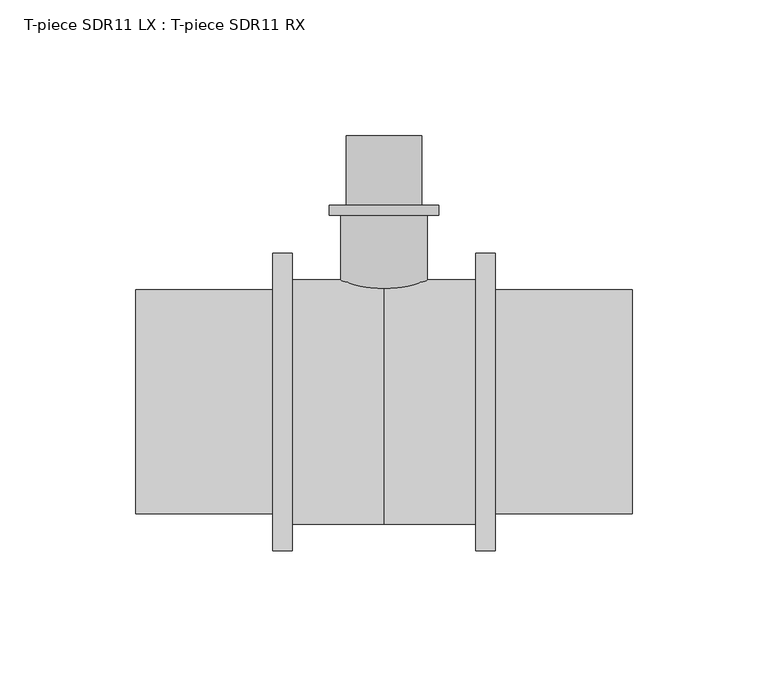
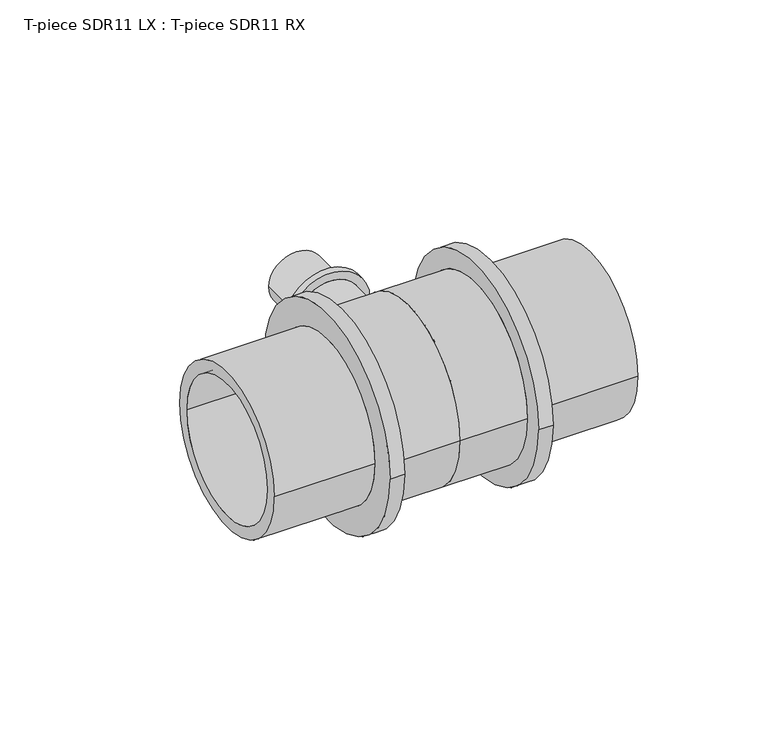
"""IFC4 building model written with IfcOpenShell, lengths in millimetres: pipe fitting geometry, T-piece SDR11 LX : T-piece SDR11 RX."""

from ifc_helpers import new_model, si_unit, point, frame, origin, place, context, project, spatial, polyline, circle_curve, ellipse_curve, trimmed, source, transform, mapped, element, save
from ifc_brep_helpers import plane_surface, cylinder_surface, revolved_surface, advanced_brep


def t_piece_sdr11_lx_t_piece_sdr11_rx_d9e8349e(model_context):
    return source(origin(), model_context, "Body", "AdvancedBrep", [
        advanced_brep(
        [(16.0, 0.8179801, 0.0), (-16.0, 0.8179801, 0.0), (-16.0, 68.8, 0.0), (16.0, 68.8, 0.0), (11.0, 98.0, 0.0), (-11.0, 98.0, 0.0), (-11.0, 0.0, 0.0), (11.0, 0.0, 0.0), (13.85, 72.5, 0.0), (-13.85, 72.5, 0.0), (-13.85, 98.0, 0.0), (13.85, 98.0, 0.0), (20.15, 68.8, 0.0), (-20.15, 68.8, 0.0), (-20.15, 72.5, 0.0), (20.15, 72.5, 0.0)],
        [
            (0, 1, circle_curve(frame((0.0, 0.8179801, 0.0), z_axis=(0.0, 1.0, 0.0), x_axis=(-1.0, 0.0, 0.0)), 16.0)),
            (1, 2),
            (2, 3, circle_curve(frame((0.0, 68.8, 0.0), z_axis=(0.0, -1.0, 0.0), x_axis=(-1.0, 0.0, 0.0)), 16.0)),
            (3, 0),
            (4, 5, circle_curve(frame((0.0, 98.0, 0.0), z_axis=(0.0, 1.0, 0.0), x_axis=(-1.0, 0.0, 0.0)), 11.0)),
            (5, 6),
            (6, 7, circle_curve(frame((0.0, 0.0, 0.0), z_axis=(0.0, -1.0, 0.0), x_axis=(-1.0, 0.0, 0.0)), 11.0)),
            (7, 4),
            (8, 9, circle_curve(frame((0.0, 72.5, 0.0), z_axis=(0.0, 1.0, 0.0), x_axis=(-1.0, 0.0, 0.0)), 13.85)),
            (9, 10),
            (10, 11, circle_curve(frame((0.0, 98.0, 0.0), z_axis=(0.0, -1.0, 0.0), x_axis=(-1.0, 0.0, 0.0)), 13.85)),
            (11, 8),
            (12, 13, circle_curve(frame((0.0, 68.8, 0.0), z_axis=(0.0, 1.0, 0.0), x_axis=(-1.0, 0.0, 0.0)), 20.15)),
            (13, 14),
            (14, 15, circle_curve(frame((0.0, 72.5, 0.0), z_axis=(0.0, -1.0, 0.0), x_axis=(-1.0, 0.0, 0.0)), 20.15)),
            (15, 12),
            (12, 13, circle_curve(frame((0.0, 68.8, 0.0), z_axis=(0.0, -1.0, 0.0), x_axis=(1.0, 0.0, 0.0)), 20.15)),
            (2, 3, circle_curve(frame((0.0, 68.8, 0.0), z_axis=(0.0, 1.0, 0.0), x_axis=(1.0, 0.0, 0.0)), 16.0)),
            (1, 0, circle_curve(frame((0.0, 0.8179801, 0.0), z_axis=(0.0, 1.0, 0.0), x_axis=(1.0, 0.0, 0.0)), 16.0)),
            (5, 4, circle_curve(frame((0.0, 98.0, 0.0), z_axis=(0.0, 1.0, 0.0), x_axis=(1.0, 0.0, 0.0)), 11.0)),
            (7, 6, circle_curve(frame((0.0, 0.0, 0.0), z_axis=(0.0, -1.0, 0.0), x_axis=(1.0, 0.0, 0.0)), 11.0)),
            (10, 11, circle_curve(frame((0.0, 98.0, 0.0), z_axis=(0.0, 1.0, 0.0), x_axis=(1.0, 0.0, 0.0)), 13.85)),
            (9, 8, circle_curve(frame((0.0, 72.5, 0.0), z_axis=(0.0, 1.0, 0.0), x_axis=(1.0, 0.0, 0.0)), 13.85)),
            (14, 15, circle_curve(frame((0.0, 72.5, 0.0), z_axis=(0.0, 1.0, 0.0), x_axis=(1.0, 0.0, 0.0)), 20.15)),
            (6, 1, circle_curve(frame((-6.2462802, 44.7482083, 0.0), z_axis=(0.0, 0.0, -1.0), x_axis=(0.0, -1.0, 0.0)), 45.0)),
            (0, 7, circle_curve(frame((6.2462802, 44.7482083, 0.0), z_axis=(0.0, 0.0, -1.0), x_axis=(0.0, -1.0, 0.0)), 45.0)),
        ],
        [
            cylinder_surface(frame((0.0, 0.0, 0.0), z_axis=(0.0, -1.0, 0.0), x_axis=(-1.0, 0.0, 0.0)), 16.0),
            revolved_surface(polyline([(-11.0, 0.0, 0.0), (-11.0, 98.0, 0.0)]), (0.0, 0.0, 0.0), (0.0, -1.0, 0.0)),
            cylinder_surface(frame((0.0, 0.0, 0.0), z_axis=(0.0, -1.0, 0.0), x_axis=(-1.0, 0.0, 0.0)), 13.85),
            cylinder_surface(frame((0.0, 0.0, 0.0), z_axis=(0.0, -1.0, 0.0), x_axis=(-1.0, 0.0, 0.0)), 20.15),
            plane_surface(frame((0.0, 68.8, 0.0), z_axis=(0.0, -1.0, 0.0), x_axis=(1.0, 0.0, 0.0))),
            cylinder_surface(frame((0.0, 0.0, 0.0), z_axis=(0.0, -1.0, 0.0), x_axis=(1.0, 0.0, 0.0)), 16.0),
            revolved_surface(polyline([(11.0, 0.0, 0.0), (11.0, 98.0, 0.0)]), (0.0, 0.0, 0.0), (0.0, -1.0, 0.0)),
            plane_surface(frame((0.0, 98.0, 0.0), z_axis=(0.0, 1.0, 0.0), x_axis=(1.0, 0.0, 0.0))),
            cylinder_surface(frame((0.0, 0.0, 0.0), z_axis=(0.0, -1.0, 0.0), x_axis=(1.0, 0.0, 0.0)), 13.85),
            plane_surface(frame((0.0, 72.5, 0.0), z_axis=(0.0, 1.0, 0.0), x_axis=(1.0, 0.0, 0.0))),
            cylinder_surface(frame((0.0, 0.0, 0.0), z_axis=(0.0, -1.0, 0.0), x_axis=(1.0, 0.0, 0.0)), 20.15),
            revolved_surface(trimmed(ellipse_curve(frame((-6.2462802, 44.7482083, 0.0), z_axis=(0.0, 0.0, 1.0), x_axis=(0.0, -1.0, 0.0)), 45.0, 45.0), [point((-16.0, 0.8179801, 0.0))], [point((-11.0, 0.0, 0.0))], True, "CARTESIAN"), (0.0, 0.0, 0.0), (0.0, -1.0, 0.0)),
            revolved_surface(trimmed(ellipse_curve(frame((6.2462802, 44.7482083, 0.0), z_axis=(0.0, 0.0, -1.0), x_axis=(0.0, -1.0, 0.0)), 45.0, 45.0), [point((16.0, 0.8179801, 0.0))], [point((11.0, 0.0, 0.0))], True, "CARTESIAN"), (0.0, 0.0, 0.0), (0.0, -1.0, 0.0)),
        ],
        [
            (0, [[1, 2, 3, 4]]),
            (1, [[5, 6, 7, 8]]),
            (2, [[9, 10, 11, 12]]),
            (3, [[13, 14, 15, 16]]),
            (4, [[17, -13], [18, -3]]),
            (5, [[19, -4, -18, -2]]),
            (6, [[20, -8, 21, -6]]),
            (7, [[22, -11], [-20, -5]]),
            (8, [[23, -12, -22, -10]]),
            (9, [[24, -15], [-23, -9]]),
            (10, [[-17, -16, -24, -14]]),
            (11, [[-7, 25, -1, 26]]),
            (12, [[-21, -26, -19, -25]]),
        ],
    ),
        advanced_brep(
        [(33.7, 45.0, 0.0), (33.7, -45.0, 0.0), (0.0, -45.0, 0.0), (0.0, 45.0, 0.0), (0.0, 35.0, 0.0), (0.0, -35.0, 0.0), (91.4, -35.0, 0.0), (91.4, 35.0, 0.0), (91.4, 41.25, 0.0), (91.4, -41.25, 0.0), (41.0, -41.25, 0.0), (41.0, 41.25, 0.0), (41.0, 54.8, 0.0), (41.0, -54.8, 0.0), (33.7, -54.8, 0.0), (33.7, 54.8, 0.0)],
        [
            (0, 1, circle_curve(frame((33.7, 0.0, 0.0), z_axis=(-1.0, 0.0, 0.0), x_axis=(0.0, -1.0, 0.0)), 45.0)),
            (1, 2),
            (2, 3, circle_curve(frame((0.0, 0.0, 0.0), z_axis=(1.0, 0.0, 0.0), x_axis=(0.0, -1.0, 0.0)), 45.0)),
            (3, 0),
            (4, 5, circle_curve(frame((0.0, 0.0, 0.0), z_axis=(-1.0, 0.0, 0.0), x_axis=(0.0, -1.0, 0.0)), 35.0)),
            (5, 6),
            (6, 7, circle_curve(frame((91.4, 0.0, 0.0), z_axis=(1.0, 0.0, 0.0), x_axis=(0.0, -1.0, 0.0)), 35.0)),
            (7, 4),
            (8, 9, circle_curve(frame((91.4, 0.0, 0.0), z_axis=(-1.0, 0.0, 0.0), x_axis=(0.0, -1.0, 0.0)), 41.25)),
            (9, 10),
            (10, 11, circle_curve(frame((41.0, 0.0, 0.0), z_axis=(1.0, 0.0, 0.0), x_axis=(0.0, -1.0, 0.0)), 41.25)),
            (11, 8),
            (12, 13, circle_curve(frame((41.0, 0.0, 0.0), z_axis=(-1.0, 0.0, 0.0), x_axis=(0.0, -1.0, 0.0)), 54.8)),
            (13, 14),
            (14, 15, circle_curve(frame((33.7, 0.0, 0.0), z_axis=(1.0, 0.0, 0.0), x_axis=(0.0, -1.0, 0.0)), 54.8)),
            (15, 12),
            (14, 15, circle_curve(frame((33.7, 0.0, 0.0), z_axis=(-1.0, 0.0, 0.0), x_axis=(0.0, 1.0, 0.0)), 54.8)),
            (0, 1, circle_curve(frame((33.7, 0.0, 0.0), z_axis=(1.0, 0.0, 0.0), x_axis=(0.0, 1.0, 0.0)), 45.0)),
            (3, 2, circle_curve(frame((0.0, 0.0, 0.0), z_axis=(1.0, 0.0, 0.0), x_axis=(0.0, 1.0, 0.0)), 45.0)),
            (4, 5, circle_curve(frame((0.0, 0.0, 0.0), z_axis=(1.0, 0.0, 0.0), x_axis=(0.0, 1.0, 0.0)), 35.0)),
            (7, 6, circle_curve(frame((91.4, 0.0, 0.0), z_axis=(1.0, 0.0, 0.0), x_axis=(0.0, 1.0, 0.0)), 35.0)),
            (8, 9, circle_curve(frame((91.4, 0.0, 0.0), z_axis=(1.0, 0.0, 0.0), x_axis=(0.0, 1.0, 0.0)), 41.25)),
            (11, 10, circle_curve(frame((41.0, 0.0, 0.0), z_axis=(1.0, 0.0, 0.0), x_axis=(0.0, 1.0, 0.0)), 41.25)),
            (12, 13, circle_curve(frame((41.0, 0.0, 0.0), z_axis=(1.0, 0.0, 0.0), x_axis=(0.0, 1.0, 0.0)), 54.8)),
        ],
        [
            cylinder_surface(frame((0.0, 0.0, 0.0), z_axis=(1.0, 0.0, 0.0), x_axis=(0.0, -1.0, 0.0)), 45.0),
            revolved_surface(polyline([(91.4, -35.0, 0.0), (0.0, -35.0, 0.0)]), (0.0, 0.0, 0.0), (1.0, 0.0, 0.0)),
            cylinder_surface(frame((0.0, 0.0, 0.0), z_axis=(1.0, 0.0, 0.0), x_axis=(0.0, -1.0, 0.0)), 41.25),
            cylinder_surface(frame((0.0, 0.0, 0.0), z_axis=(1.0, 0.0, 0.0), x_axis=(0.0, -1.0, 0.0)), 54.8),
            plane_surface(frame((33.7, 0.0, 0.0), z_axis=(-1.0, 0.0, 0.0), x_axis=(0.0, 1.0, 0.0))),
            cylinder_surface(frame((0.0, 0.0, 0.0), z_axis=(1.0, 0.0, 0.0), x_axis=(0.0, 1.0, 0.0)), 45.0),
            plane_surface(frame((0.0, 0.0, 0.0), z_axis=(-1.0, 0.0, 0.0), x_axis=(0.0, 1.0, 0.0))),
            revolved_surface(polyline([(91.4, 35.0, 0.0), (0.0, 35.0, 0.0)]), (0.0, 0.0, 0.0), (1.0, 0.0, 0.0)),
            plane_surface(frame((91.4, 0.0, 0.0), z_axis=(1.0, 0.0, 0.0), x_axis=(0.0, 1.0, 0.0))),
            cylinder_surface(frame((0.0, 0.0, 0.0), z_axis=(1.0, 0.0, 0.0), x_axis=(0.0, 1.0, 0.0)), 41.25),
            plane_surface(frame((41.0, 0.0, 0.0), z_axis=(1.0, 0.0, 0.0), x_axis=(0.0, 1.0, 0.0))),
            cylinder_surface(frame((0.0, 0.0, 0.0), z_axis=(1.0, 0.0, 0.0), x_axis=(0.0, 1.0, 0.0)), 54.8),
        ],
        [
            (0, [[1, 2, 3, 4]]),
            (1, [[5, 6, 7, 8]]),
            (2, [[9, 10, 11, 12]]),
            (3, [[13, 14, 15, 16]]),
            (4, [[17, -15], [18, -1]]),
            (5, [[-18, -4, 19, -2]]),
            (6, [[-19, -3], [20, -5]]),
            (7, [[-20, -8, 21, -6]]),
            (8, [[22, -9], [-21, -7]]),
            (9, [[-22, -12, 23, -10]]),
            (10, [[24, -13], [-23, -11]]),
            (11, [[-24, -16, -17, -14]]),
        ],
    ),
        advanced_brep(
        [(0.0, 45.0, 0.0), (0.0, -45.0, 0.0), (-33.7, -45.0, 0.0), (-33.7, 45.0, 0.0), (-91.4, 35.0, 0.0), (-91.4, -35.0, 0.0), (0.0, -35.0, 0.0), (0.0, 35.0, 0.0), (-41.0, 41.25, 0.0), (-41.0, -41.25, 0.0), (-91.4, -41.25, 0.0), (-91.4, 41.25, 0.0), (-33.7, 54.8, 0.0), (-33.7, -54.8, 0.0), (-41.0, -54.8, 0.0), (-41.0, 54.8, 0.0)],
        [
            (0, 1, circle_curve(frame((0.0, 0.0, 0.0), z_axis=(-1.0, 0.0, 0.0), x_axis=(0.0, -1.0, 0.0)), 45.0)),
            (1, 2),
            (2, 3, circle_curve(frame((-33.7, 0.0, 0.0), z_axis=(1.0, 0.0, 0.0), x_axis=(0.0, -1.0, 0.0)), 45.0)),
            (3, 0),
            (4, 5, circle_curve(frame((-91.4, 0.0, 0.0), z_axis=(-1.0, 0.0, 0.0), x_axis=(0.0, -1.0, 0.0)), 35.0)),
            (5, 6),
            (6, 7, circle_curve(frame((0.0, 0.0, 0.0), z_axis=(1.0, 0.0, 0.0), x_axis=(0.0, -1.0, 0.0)), 35.0)),
            (7, 4),
            (8, 9, circle_curve(frame((-41.0, 0.0, 0.0), z_axis=(-1.0, 0.0, 0.0), x_axis=(0.0, -1.0, 0.0)), 41.25)),
            (9, 10),
            (10, 11, circle_curve(frame((-91.4, 0.0, 0.0), z_axis=(1.0, 0.0, 0.0), x_axis=(0.0, -1.0, 0.0)), 41.25)),
            (11, 8),
            (12, 13, circle_curve(frame((-33.7, 0.0, 0.0), z_axis=(-1.0, 0.0, 0.0), x_axis=(0.0, -1.0, 0.0)), 54.8)),
            (13, 14),
            (14, 15, circle_curve(frame((-41.0, 0.0, 0.0), z_axis=(1.0, 0.0, 0.0), x_axis=(0.0, -1.0, 0.0)), 54.8)),
            (15, 12),
            (12, 13, circle_curve(frame((-33.7, 0.0, 0.0), z_axis=(1.0, 0.0, 0.0), x_axis=(0.0, 1.0, 0.0)), 54.8)),
            (2, 3, circle_curve(frame((-33.7, 0.0, 0.0), z_axis=(-1.0, 0.0, 0.0), x_axis=(0.0, 1.0, 0.0)), 45.0)),
            (1, 0, circle_curve(frame((0.0, 0.0, 0.0), z_axis=(-1.0, 0.0, 0.0), x_axis=(0.0, 1.0, 0.0)), 45.0)),
            (6, 7, circle_curve(frame((0.0, 0.0, 0.0), z_axis=(-1.0, 0.0, 0.0), x_axis=(0.0, 1.0, 0.0)), 35.0)),
            (5, 4, circle_curve(frame((-91.4, 0.0, 0.0), z_axis=(-1.0, 0.0, 0.0), x_axis=(0.0, 1.0, 0.0)), 35.0)),
            (10, 11, circle_curve(frame((-91.4, 0.0, 0.0), z_axis=(-1.0, 0.0, 0.0), x_axis=(0.0, 1.0, 0.0)), 41.25)),
            (9, 8, circle_curve(frame((-41.0, 0.0, 0.0), z_axis=(-1.0, 0.0, 0.0), x_axis=(0.0, 1.0, 0.0)), 41.25)),
            (14, 15, circle_curve(frame((-41.0, 0.0, 0.0), z_axis=(-1.0, 0.0, 0.0), x_axis=(0.0, 1.0, 0.0)), 54.8)),
        ],
        [
            cylinder_surface(frame((0.0, 0.0, 0.0), z_axis=(1.0, 0.0, 0.0), x_axis=(0.0, -1.0, 0.0)), 45.0),
            revolved_surface(polyline([(0.0, -35.0, 0.0), (-91.4, -35.0, 0.0)]), (0.0, 0.0, 0.0), (1.0, 0.0, 0.0)),
            cylinder_surface(frame((0.0, 0.0, 0.0), z_axis=(1.0, 0.0, 0.0), x_axis=(0.0, -1.0, 0.0)), 41.25),
            cylinder_surface(frame((0.0, 0.0, 0.0), z_axis=(1.0, 0.0, 0.0), x_axis=(0.0, -1.0, 0.0)), 54.8),
            plane_surface(frame((-33.7, 0.0, 0.0), z_axis=(1.0, 0.0, 0.0), x_axis=(0.0, 1.0, 0.0))),
            cylinder_surface(frame((0.0, 0.0, 0.0), z_axis=(1.0, 0.0, 0.0), x_axis=(0.0, 1.0, 0.0)), 45.0),
            plane_surface(frame((0.0, 0.0, 0.0), z_axis=(1.0, 0.0, 0.0), x_axis=(0.0, 1.0, 0.0))),
            revolved_surface(polyline([(0.0, 35.0, 0.0), (-91.4, 35.0, 0.0)]), (0.0, 0.0, 0.0), (1.0, 0.0, 0.0)),
            plane_surface(frame((-91.4, 0.0, 0.0), z_axis=(-1.0, 0.0, 0.0), x_axis=(0.0, 1.0, 0.0))),
            cylinder_surface(frame((0.0, 0.0, 0.0), z_axis=(1.0, 0.0, 0.0), x_axis=(0.0, 1.0, 0.0)), 41.25),
            plane_surface(frame((-41.0, 0.0, 0.0), z_axis=(-1.0, 0.0, 0.0), x_axis=(0.0, 1.0, 0.0))),
            cylinder_surface(frame((0.0, 0.0, 0.0), z_axis=(1.0, 0.0, 0.0), x_axis=(0.0, 1.0, 0.0)), 54.8),
        ],
        [
            (0, [[1, 2, 3, 4]]),
            (1, [[5, 6, 7, 8]]),
            (2, [[9, 10, 11, 12]]),
            (3, [[13, 14, 15, 16]]),
            (4, [[17, -13], [18, -3]]),
            (5, [[19, -4, -18, -2]]),
            (6, [[-19, -1], [20, -7]]),
            (7, [[21, -8, -20, -6]]),
            (8, [[22, -11], [-21, -5]]),
            (9, [[23, -12, -22, -10]]),
            (10, [[24, -15], [-23, -9]]),
            (11, [[-17, -16, -24, -14]]),
        ],
    ),
    ])


if __name__ == "__main__":
    model = new_model("IFC4")
    model_context = context("Model", 3, world=origin())
    ifc_project = project(units=[si_unit("LENGTHUNIT", "METRE", prefix="MILLI")], contexts=[model_context])
    site = spatial("IfcSite", under=ifc_project)
    building = spatial("IfcBuilding", under=site)
    placement = place(None, origin())
    t_piece_sdr11_lx_t_piece_sdr11_rx_shape = t_piece_sdr11_lx_t_piece_sdr11_rx_d9e8349e(model_context)
    element("IfcPipeFitting", 1, ObjectType="T-piece SDR11 LX : T-piece SDR11 RX", at=placement, inside=building, context=model_context, shape_type="MappedRepresentation", body=[
        mapped(t_piece_sdr11_lx_t_piece_sdr11_rx_shape, transform((0.0, 0.0, 0.0), x_axis=(1.0, 0.0, 0.0), y_axis=(0.0, 1.0, 0.0), z_axis=(0.0, 0.0, 1.0))),
    ])
    save(model, "model.ifc")
